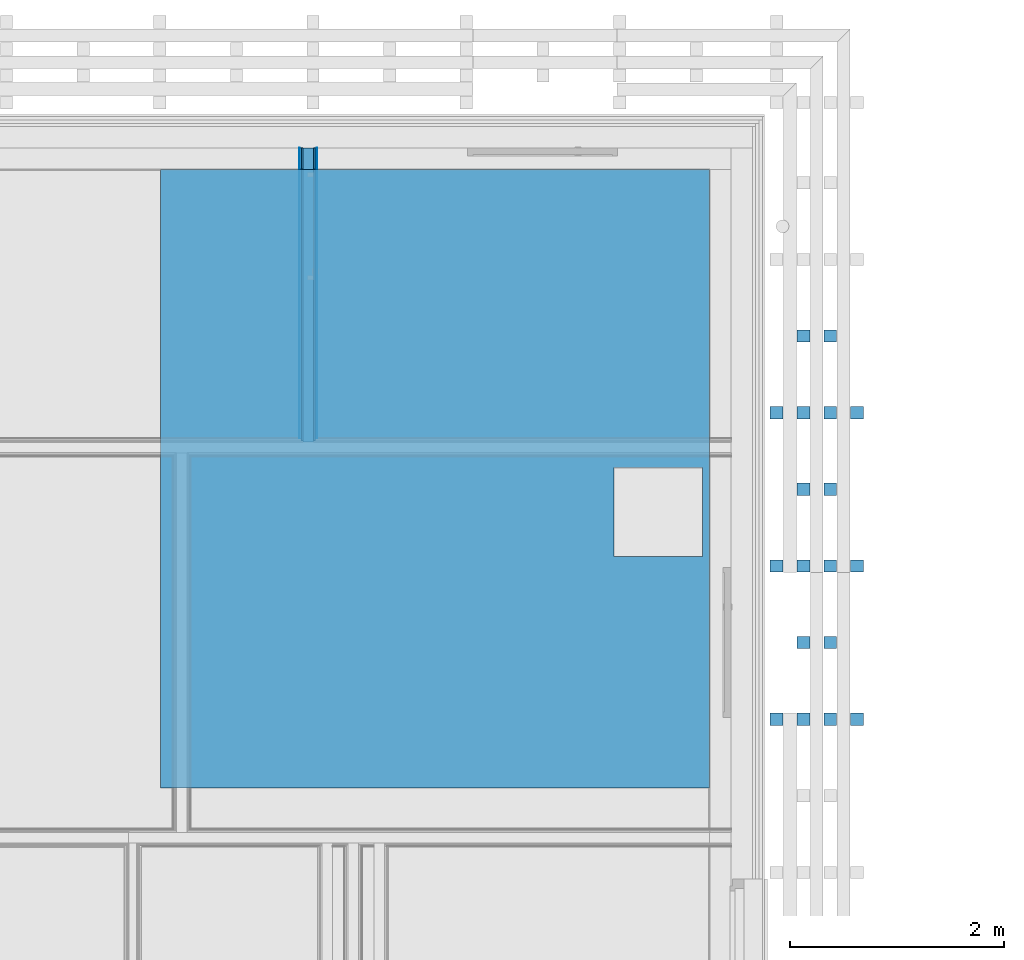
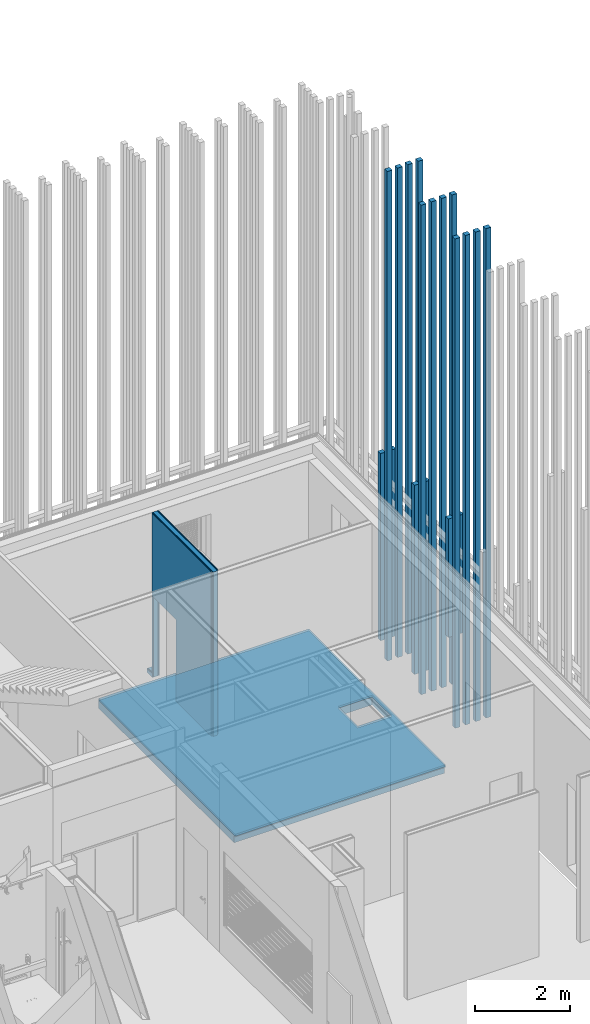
# One storey, part 194 of 260: 11 building element parts, 6 discrete accessories, 1 opening, 2 elements without a shape of their own.
"""IFC2X3 building model written with IfcOpenShell, lengths in millimetres."""

from ifc_helpers import new_model, entity, si_unit, converted_unit, derived_unit, money_unit, direction, frame, origin_with_axes, place, context, subcontext, project, spatial, faceted_brep, material, material_list, type_object, element, aggregate, save


model = new_model("IFC2X3")

# Units and contexts
model_context = context("Model", 3, precision=0.01, world=origin_with_axes(), true_north=direction((0.0, 1.0)))
body_context = subcontext(model_context, "Body", "Model", "MODEL_VIEW")
ifc_project = project(units=[si_unit("LENGTHUNIT", "METRE", prefix="MILLI"), si_unit("AREAUNIT", "SQUARE_METRE"), si_unit("VOLUMEUNIT", "CUBIC_METRE"), converted_unit("PLANEANGLEUNIT", "DEGREE", entity("IfcPlaneAngleMeasure", 0.0174532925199), si_unit("PLANEANGLEUNIT", "RADIAN"), dimensions=[0, 0, 0, 0, 0, 0, 0]), money_unit("EUR"), converted_unit("TIMEUNIT", "Year", entity("IfcTimeMeasure", 31556926.0), si_unit("TIMEUNIT", "SECOND"), dimensions=[0, 0, 1, 0, 0, 0, 0]), si_unit("MASSUNIT", "GRAM", prefix="KILO"), si_unit("THERMODYNAMICTEMPERATUREUNIT", "DEGREE_CELSIUS"), si_unit("LUMINOUSINTENSITYUNIT", "LUMEN"), si_unit("ENERGYUNIT", "JOULE", prefix="MEGA"), derived_unit("THERMALCONDUCTANCEUNIT", [(si_unit("POWERUNIT", "WATT"), 1), (si_unit("LENGTHUNIT", "METRE"), -1), (si_unit("THERMODYNAMICTEMPERATUREUNIT", "KELVIN"), -1)]), derived_unit("SPECIFICHEATCAPACITYUNIT", [(si_unit("ENERGYUNIT", "JOULE"), 1), (si_unit("MASSUNIT", "GRAM", prefix="KILO"), -1), (si_unit("THERMODYNAMICTEMPERATUREUNIT", "KELVIN"), -1)]), derived_unit("MASSDENSITYUNIT", [(si_unit("MASSUNIT", "GRAM", prefix="KILO"), 1), (si_unit("VOLUMEUNIT", "CUBIC_METRE"), -1)])], contexts=[model_context])

# Site, building, storey
site_placement = place(None, origin_with_axes())
site = spatial("IfcSite", under=ifc_project, at=site_placement, Name="Kolde pst 67a", CompositionType="ELEMENT")
building_placement = place(site_placement, origin_with_axes())
building = spatial("IfcBuilding", under=site, at=building_placement, Name="Riigigümnaasium", CompositionType="ELEMENT")
storey_placement = place(building_placement, origin_with_axes())
storey = spatial("IfcBuildingStorey", under=building, at=storey_placement, Name="1. korrus", CompositionType="ELEMENT", Elevation=0.0)

# Discrete accessories
ifc_material_1 = material(Name="_VÄLISVIIMISTLUS - sõrmjätkatud puitprussid 120x115mm, liitekohad vähemärgatavad, Platowood sõrmjätkatud kuusk või samaväärne; eeltöödeldud tuletõkkevõõbaga, tuletundlikkus B-s1, d0, Woodsafe Exterior WFX™ või samaväärne; kinnitused vastavalt EK osale")
ifc_material_list_1 = material_list([ifc_material_1, ifc_material_1, ifc_material_1, ifc_material_1])
discrete_accessory_type_1 = type_object("IfcDiscreteAccessoryType", Name="120 4-ne vertikaalne 870 x 115")
for number, where, z_axis, x_axis in (
    (1, (60792.0389555, 57957.4998418, 280.0), (0.0, 0.0, 1.0), (-0.999999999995, -3.13999128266e-06, 0.0)),
    (2, (60791.9939731, 56527.4998418, 280.0), (0.0, 0.0, 1.0), (-0.999999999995, -3.13999128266e-06, 0.0)),
    (3, (60791.9939731, 55097.4998416, 280.0), (0.0, 0.0, 1.0), (-0.999999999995, -3.13999128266e-06, 0.0)),
):
    element("IfcDiscreteAccessory", number, at=place(storey_placement, frame(where, z_axis=z_axis, x_axis=x_axis)), inside=storey, type_object=discrete_accessory_type_1, material=ifc_material_list_1, Name="Päikesevarjestus", context=body_context, shape_type="Brep", body=[
        faceted_brep([(-133.0, -70.0, 0.0), (-13.0, -70.0, 0.0), (-13.0, -70.0, 12600.0), (-133.0, -70.0, 12600.0), (-133.0, 45.0, 0.0), (-13.0, 45.0, 0.0), (-13.0, 45.0, 12600.0), (-133.0, 45.0, 12600.0)], [[[0, 1, 2, 3]], [[0, 4, 5, 1]], [[1, 5, 6, 2]], [[3, 2, 6, 7]], [[4, 0, 3, 7]], [[5, 4, 7, 6]]]),
        faceted_brep([(-383.0, -70.0, 0.0), (-263.0, -70.0, 0.0), (-263.0, -70.0, 12600.0), (-383.0, -70.0, 12600.0), (-383.0, 45.0, 0.0), (-263.0, 45.0, 0.0), (-263.0, 45.0, 12600.0), (-383.0, 45.0, 12600.0)], [[[0, 1, 2, 3]], [[0, 4, 5, 1]], [[1, 5, 6, 2]], [[3, 2, 6, 7]], [[4, 0, 3, 7]], [[5, 4, 7, 6]]]),
        faceted_brep([(-633.0, -70.0, 0.0), (-513.0, -70.0, 0.0), (-513.0, -70.0, 12600.0), (-633.0, -70.0, 12600.0), (-633.0, 45.0, 0.0), (-513.0, 45.0, 0.0), (-513.0, 45.0, 12600.0), (-633.0, 45.0, 12600.0)], [[[0, 1, 2, 3]], [[0, 4, 5, 1]], [[1, 5, 6, 2]], [[3, 2, 6, 7]], [[4, 0, 3, 7]], [[5, 4, 7, 6]]]),
        faceted_brep([(-883.0, -70.0, 0.0), (-763.0, -70.0, 0.0), (-763.0, -70.0, 12600.0), (-883.0, -70.0, 12600.0), (-883.0, 45.0, 0.0), (-763.0, 45.0, 0.0), (-763.0, 45.0, 12600.0), (-883.0, 45.0, 12600.0)], [[[0, 1, 2, 3]], [[0, 4, 5, 1]], [[1, 5, 6, 2]], [[3, 2, 6, 7]], [[4, 0, 3, 7]], [[5, 4, 7, 6]]]),
    ])
ifc_material_list_2 = material_list([ifc_material_1, ifc_material_1])
discrete_accessory_type_2 = type_object("IfcDiscreteAccessoryType", Name="1+paiksekaitse 3 370 x 115")
discrete_accessory_1_placement = place(storey_placement, frame((61771.9937454, 55885.0013897, 2100.00014213), z_axis=(0.0, 0.0, 1.0), x_axis=(-1.0, 0.0, 0.0)))
element("IfcDiscreteAccessory", 4, at=discrete_accessory_1_placement, inside=storey, type_object=discrete_accessory_type_2, material=ifc_material_list_2, Name="Päikesevarjestus", context=body_context, shape_type="Brep", body=[
    faceted_brep([(467.0, 117.5, 0.0), (347.0, 117.5, 0.0), (347.0, 117.5, 3050.0), (467.0, 117.5, 3050.0), (467.0, 2.5, 0.0), (347.0, 2.5, 0.0), (347.0, 2.5, 3050.0), (467.0, 2.5, 3050.0)], [[[0, 1, 2, 3]], [[0, 4, 5, 1]], [[1, 5, 6, 2]], [[3, 2, 6, 7]], [[4, 0, 3, 7]], [[5, 4, 7, 6]]]),
    faceted_brep([(717.0, 117.5, 0.0), (597.0, 117.5, 0.0), (597.0, 117.5, 3050.0), (717.0, 117.5, 3050.0), (717.0, 2.5, 0.0), (597.0, 2.5, 0.0), (597.0, 2.5, 3050.0), (717.0, 2.5, 3050.0)], [[[0, 1, 2, 3]], [[0, 4, 5, 1]], [[1, 5, 6, 2]], [[3, 2, 6, 7]], [[4, 0, 3, 7]], [[5, 4, 7, 6]]]),
])
discrete_accessory_2_placement = place(storey_placement, frame((61771.9937454, 57315.0013897, 280.0), z_axis=(0.0, 0.0, 1.0), x_axis=(-1.0, 0.0, 0.0)))
element("IfcDiscreteAccessory", 5, at=discrete_accessory_2_placement, inside=storey, type_object=discrete_accessory_type_2, material=ifc_material_list_2, Name="Päikesevarjestus", context=body_context, shape_type="Brep", body=[
    faceted_brep([(467.0, 117.5, 0.0), (347.0, 117.5, 0.0), (347.0, 117.5, 4870.00014213), (467.0, 117.5, 4870.00014213), (467.0, 2.5, 0.0), (347.0, 2.5, 0.0), (347.0, 2.5, 4870.00014213), (467.0, 2.5, 4870.00014213)], [[[0, 1, 2, 3]], [[0, 4, 5, 1]], [[1, 5, 6, 2]], [[3, 2, 6, 7]], [[4, 0, 3, 7]], [[5, 4, 7, 6]]]),
    faceted_brep([(717.0, 117.5, 0.0), (597.0, 117.5, 0.0), (597.0, 117.5, 4870.00014213), (717.0, 117.5, 4870.00014213), (717.0, 2.5, 0.0), (597.0, 2.5, 0.0), (597.0, 2.5, 4870.00014213), (717.0, 2.5, 4870.00014213)], [[[0, 1, 2, 3]], [[0, 4, 5, 1]], [[1, 5, 6, 2]], [[3, 2, 6, 7]], [[4, 0, 3, 7]], [[5, 4, 7, 6]]]),
])
discrete_accessory_3_placement = place(storey_placement, frame((61771.9937454, 58745.0013897, 280.0), z_axis=(0.0, 0.0, 1.0), x_axis=(-1.0, 0.0, 0.0)))
element("IfcDiscreteAccessory", 6, at=discrete_accessory_3_placement, inside=storey, type_object=discrete_accessory_type_2, material=ifc_material_list_2, Name="Päikesevarjestus", context=body_context, shape_type="Brep", body=[
    faceted_brep([(467.0, 117.5, 0.0), (347.0, 117.5, 0.0), (347.0, 117.5, 4820.0), (467.0, 117.5, 4820.0), (467.0, 2.5, 0.0), (347.0, 2.5, 0.0), (347.0, 2.5, 4820.0), (467.0, 2.5, 4820.0)], [[[0, 1, 2, 3]], [[0, 4, 5, 1]], [[1, 5, 6, 2]], [[3, 2, 6, 7]], [[4, 0, 3, 7]], [[5, 4, 7, 6]]]),
    faceted_brep([(717.0, 117.5, 0.0), (597.0, 117.5, 0.0), (597.0, 117.5, 4820.0), (717.0, 117.5, 4820.0), (717.0, 2.5, 0.0), (597.0, 2.5, 0.0), (597.0, 2.5, 4820.0), (717.0, 2.5, 4820.0)], [[[0, 1, 2, 3]], [[0, 4, 5, 1]], [[1, 5, 6, 2]], [[3, 2, 6, 7]], [[4, 0, 3, 7]], [[5, 4, 7, 6]]]),
])

# Wall, opening, building element parts
wall_type = type_object("IfcWallType", Name="SS-PK-10/9_vill100+2värv 170", PredefinedType="NOTDEFINED")
wall_placement = place(storey_placement, frame((56579.9939157, 57730.0055844, 0.0), z_axis=(0.0, 0.0, 1.0), x_axis=(0.0, 1.0, 0.0)))
wall = element("IfcWall", 7, at=wall_placement, inside=storey, type_object=wall_type, Name="Sisesein")
opening_placement = place(wall_placement, frame((1979.40584584, 0.0, 0.0), z_axis=(0.0, 0.0, 1.0), x_axis=(1.0, 0.0, 0.0)))
element("IfcOpeningElement", 8, at=opening_placement, cuts=wall, Name="Siseuks", context=body_context, shape_type="Brep", body=[
    faceted_brep([(500.0, -340.0, 2100.0), (500.0, -340.0, 0.0), (500.0, 170.0, 0.0), (500.0, 170.0, 2100.0), (-500.0, -340.0, 2100.0), (-500.0, -340.0, 0.0), (-500.0, 170.0, 0.0), (-500.0, 170.0, 2100.0)], [[[0, 1, 2, 3]], [[0, 4, 5, 1]], [[1, 5, 6, 2]], [[3, 2, 6, 7]], [[4, 0, 3, 7]], [[5, 4, 7, 6]]]),
])
ifc_material_2 = material(Name="_VIIMISTLUSKIHT - viimistlus vastavalt SA osale")
building_element_part_1_placement = place(wall_placement, origin_with_axes())
building_element_part_1 = element("IfcBuildingElementPart", 9, at=building_element_part_1_placement, material=ifc_material_2, Name="_VIIMISTLUSKIHT - viimistlus vastavalt SA osale", context=body_context, shape_type="Brep", body=[
    faceted_brep([(1479.40584584, 165.00000035, 0.0), (1479.40584584, 165.000000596, 2100.0), (2479.40584584, 165.000000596, 2100.0), (2479.40584584, 165.00000055, 0.0), (2709.99459998, 165.000000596, 0.0), (2709.99459998, 165.000000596, 100.0), (2499.99459998, 165.000000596, 100.0), (2499.99459998, 165.0, 4230.00000998), (0.0, 165.0, 4230.00000998), (0.0, 165.000000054, 0.0), (1479.40584584, 170.0, 0.0), (1479.40584584, 170.0, 2100.0), (2479.40584584, 170.0, 2100.0), (2479.40584584, 170.0, 0.0), (2709.99459998, 170.0, 0.0), (2709.99459998, 170.0, 100.0), (2499.99459998, 170.0, 100.0), (2499.99459998, 170.0, 4230.00000998), (0.0, 170.0, 4230.00000998), (0.0, 170.0, 0.0)], [[[0, 1, 2, 3, 4, 5, 6, 7, 8, 9]], [[1, 0, 10, 11]], [[2, 1, 11, 12]], [[3, 2, 12, 13]], [[3, 13, 14, 4]], [[5, 4, 14, 15]], [[16, 6, 5, 15]], [[7, 6, 16, 17]], [[17, 18, 8, 7]], [[8, 18, 19, 9]], [[10, 0, 9, 19]], [[11, 10, 19, 18, 17, 16, 15, 14, 13, 12]]]),
])
ifc_material_3 = material(Name="_PLAATMATERJAL - tuletõkkekipsplaat, Knauf Red GKF või samaväärne")
building_element_part_2_placement = place(wall_placement, origin_with_axes())
building_element_part_2 = element("IfcBuildingElementPart", 10, at=building_element_part_2_placement, material=ifc_material_3, Name="_PLAATMATERJAL - tuletõkkekipsplaat, Knauf Red GKF või samaväärne", context=body_context, shape_type="Brep", body=[
    faceted_brep([(1479.40584584, 149.999999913, 0.0), (1479.40584584, 149.999999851, 2100.0), (2479.40584584, 149.999999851, 2100.0), (2479.40584584, 149.999999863, 0.0), (2709.99459998, 149.999999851, 0.0), (2709.99459998, 149.999999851, 100.0), (2509.99459998, 149.999999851, 100.0), (2509.99459998, 150.0, 4230.00000998), (-5.0, 150.0, 4230.00000998), (-5.0, 149.999999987, 0.0), (1479.40584584, 165.00000035, 0.0), (1479.40584584, 165.000000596, 2100.0), (2479.40584584, 165.000000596, 2100.0), (2479.40584584, 165.00000055, 0.0), (2709.99459998, 165.000000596, 0.0), (2709.99459998, 165.000000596, 100.0), (2509.99459998, 165.000000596, 100.0), (2509.99459998, 165.0, 4230.00000998), (-5.0, 165.0, 4230.00000998), (-5.0, 165.000000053, 0.0)], [[[0, 1, 2, 3, 4, 5, 6, 7, 8, 9]], [[1, 0, 10, 11]], [[2, 1, 11, 12]], [[3, 2, 12, 13]], [[3, 13, 14, 4]], [[5, 4, 14, 15]], [[5, 15, 16, 6]], [[7, 6, 16, 17]], [[17, 18, 8, 7]], [[8, 18, 19, 9]], [[10, 0, 9, 19]], [[11, 10, 19, 18, 17, 16, 15, 14, 13, 12]]]),
])
ifc_material_4 = material(Name="_PLAATMATERJAL - OSB3 plaat")
building_element_part_3_placement = place(wall_placement, origin_with_axes())
building_element_part_3 = element("IfcBuildingElementPart", 11, at=building_element_part_3_placement, material=ifc_material_4, Name="_PLAATMATERJAL - OSB3 plaat", context=body_context, shape_type="Brep", body=[
    faceted_brep([(1479.40584584, 134.999999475, 0.0), (1479.40584584, 134.999999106, 2100.0), (2479.40584584, 134.999999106, 2100.0), (2479.40584584, 134.999999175, 0.0), (2709.99459998, 134.999999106, 0.0), (2709.99459998, 134.999999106, 100.0), (2509.99459998, 134.999999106, 100.0), (2509.99459998, 135.0, 4230.00000998), (-20.0, 135.0, 4230.00000998), (-20.0, 134.999999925, 0.0), (1479.40584584, 149.999999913, 0.0), (1479.40584584, 149.999999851, 2100.0), (2479.40584584, 149.999999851, 2100.0), (2479.40584584, 149.999999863, 0.0), (2709.99459998, 149.999999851, 0.0), (2709.99459998, 149.999999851, 100.0), (2509.99459998, 149.999999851, 100.0), (2509.99459998, 150.0, 4230.00000998), (-20.0, 150.0, 4230.00000998), (-20.0, 149.999999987, 0.0)], [[[0, 1, 2, 3, 4, 5, 6, 7, 8, 9]], [[1, 0, 10, 11]], [[2, 1, 11, 12]], [[3, 2, 12, 13]], [[3, 13, 14, 4]], [[5, 4, 14, 15]], [[5, 15, 16, 6]], [[7, 6, 16, 17]], [[17, 18, 8, 7]], [[8, 18, 19, 9]], [[10, 0, 9, 19]], [[11, 10, 19, 18, 17, 16, 15, 14, 13, 12]]]),
])
ifc_material_5 = material(Name="_KARKASS - puitpruss 100x50mm vertikaalne, samm 600mm, vahel mineraalvill, helineeldetegur αw = 1.0, ISOVER ACOUSTIC 100mm või samaväärne")
building_element_part_4_placement = place(wall_placement, origin_with_axes())
building_element_part_4 = element("IfcBuildingElementPart", 12, at=building_element_part_4_placement, material=ifc_material_5, Name="_KARKASS - puitpruss 100x50mm vertikaalne, samm 600mm, vahel mineraalvill, helineeldetegur αw = 1.0, ISOVER ACOUSTIC 100mm või samaväärne", context=body_context, shape_type="Brep", body=[
    faceted_brep([(1479.40584584, 35.0000005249, 0.0), (1479.40584584, 35.0000008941, 2100.0), (2479.40584584, 35.0000008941, 2100.0), (2479.40584584, 35.0000008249, 0.0), (2709.99459998, 35.0000008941, 0.0), (2709.99459998, 35.0000008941, 100.0), (2509.99459998, 35.0000008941, 100.0), (2509.99459998, 35.0, 4230.00000998), (-35.0, 35.0, 4230.00000998), (-35.0, 35.0000000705, 0.0), (1479.40584584, 134.999999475, 0.0), (1479.40584584, 134.999999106, 2100.0), (2479.40584584, 134.999999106, 2100.0), (2479.40584584, 134.999999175, 0.0), (2709.99459998, 134.999999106, 0.0), (2709.99459998, 134.999999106, 100.0), (2509.99459998, 134.999999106, 100.0), (2509.99459998, 135.0, 4230.00000998), (-35.0, 135.0, 4230.00000998), (-35.0, 134.999999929, 0.0)], [[[0, 1, 2, 3, 4, 5, 6, 7, 8, 9]], [[1, 0, 10, 11]], [[2, 1, 11, 12]], [[3, 2, 12, 13]], [[3, 13, 14, 4]], [[5, 4, 14, 15]], [[5, 15, 16, 6]], [[7, 6, 16, 17]], [[17, 18, 8, 7]], [[8, 18, 19, 9]], [[10, 0, 9, 19]], [[11, 10, 19, 18, 17, 16, 15, 14, 13, 12]]]),
])
building_element_part_5_placement = place(wall_placement, origin_with_axes())
building_element_part_5 = element("IfcBuildingElementPart", 13, at=building_element_part_5_placement, material=ifc_material_4, Name="_PLAATMATERJAL - OSB3 plaat", context=body_context, shape_type="Brep", body=[
    faceted_brep([(1479.40584584, 20.0000000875, 0.0), (1479.40584584, 20.000000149, 2100.0), (2479.40584584, 20.000000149, 2100.0), (2479.40584584, 20.0000001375, 0.0), (2709.99459998, 20.000000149, 0.0), (2709.99459998, 20.000000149, 100.0), (2509.99459998, 20.000000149, 100.0), (2509.99459998, 20.0, 4230.00000998), (-20.0, 20.0, 4230.00000998), (-20.0, 20.0000000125, 0.0), (1479.40584584, 35.0000005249, 0.0), (1479.40584584, 35.0000008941, 2100.0), (2479.40584584, 35.0000008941, 2100.0), (2479.40584584, 35.0000008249, 0.0), (2709.99459998, 35.0000008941, 0.0), (2709.99459998, 35.0000008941, 100.0), (2509.99459998, 35.0000008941, 100.0), (2509.99459998, 35.0, 4230.00000998), (-20.0, 35.0, 4230.00000998), (-20.0, 35.000000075, 0.0)], [[[0, 1, 2, 3, 4, 5, 6, 7, 8, 9]], [[1, 0, 10, 11]], [[2, 1, 11, 12]], [[3, 2, 12, 13]], [[3, 13, 14, 4]], [[5, 4, 14, 15]], [[5, 15, 16, 6]], [[7, 6, 16, 17]], [[17, 18, 8, 7]], [[8, 18, 19, 9]], [[10, 0, 9, 19]], [[11, 10, 19, 18, 17, 16, 15, 14, 13, 12]]]),
])
building_element_part_6_placement = place(wall_placement, origin_with_axes())
building_element_part_6 = element("IfcBuildingElementPart", 14, at=building_element_part_6_placement, material=ifc_material_3, Name="_PLAATMATERJAL - tuletõkkekipsplaat, Knauf Red GKF või samaväärne", context=body_context, shape_type="Brep", body=[
    faceted_brep([(1479.40584584, 4.99999965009, 0.0), (1479.40584584, 4.99999940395, 2100.0), (2479.40584584, 4.99999940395, 2100.0), (2479.40584584, 4.99999945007, 0.0), (2709.99459998, 4.99999940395, 0.0), (2709.99459998, 4.99999940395, 100.0), (2509.99459998, 4.99999940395, 100.0), (2509.99459998, 5.0, 4230.00000998), (-5.0, 5.0, 4230.00000998), (-5.0, 4.999999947, 0.0), (1479.40584584, 20.0000000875, 0.0), (1479.40584584, 20.000000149, 2100.0), (2479.40584584, 20.000000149, 2100.0), (2479.40584584, 20.0000001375, 0.0), (2709.99459998, 20.000000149, 0.0), (2709.99459998, 20.000000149, 100.0), (2509.99459998, 20.000000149, 100.0), (2509.99459998, 20.0, 4230.00000998), (-5.0, 20.0, 4230.00000998), (-5.0, 20.0000000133, 0.0)], [[[0, 1, 2, 3, 4, 5, 6, 7, 8, 9]], [[1, 0, 10, 11]], [[2, 1, 11, 12]], [[3, 2, 12, 13]], [[3, 13, 14, 4]], [[5, 4, 14, 15]], [[5, 15, 16, 6]], [[7, 6, 16, 17]], [[17, 18, 8, 7]], [[8, 18, 19, 9]], [[10, 0, 9, 19]], [[11, 10, 19, 18, 17, 16, 15, 14, 13, 12]]]),
])
building_element_part_7_placement = place(wall_placement, origin_with_axes())
building_element_part_7 = element("IfcBuildingElementPart", 15, at=building_element_part_7_placement, material=ifc_material_2, Name="_VIIMISTLUSKIHT - viimistlus vastavalt SA osale", context=body_context, shape_type="Brep", body=[
    faceted_brep([(1479.40584584, 0.0, 0.0), (1479.40584584, 0.0, 2100.0), (2479.40584584, 0.0, 2100.0), (2479.40584584, 0.0, 0.0), (2709.99459998, 0.0, 0.0), (2709.99459998, 0.0, 100.0), (2499.99459998, 0.0, 100.0), (2499.99459998, 0.0, 4230.00000998), (0.0, 0.0, 4230.00000998), (0.0, 0.0, 0.0), (1479.40584584, 4.99999965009, 0.0), (1479.40584584, 4.99999940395, 2100.0), (2479.40584584, 4.99999940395, 2100.0), (2479.40584584, 4.99999945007, 0.0), (2709.99459998, 4.99999940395, 0.0), (2709.99459998, 4.99999940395, 100.0), (2499.99459998, 4.99999940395, 100.0), (2499.99459998, 5.0, 4230.00000998), (0.0, 5.0, 4230.00000998), (0.0, 4.99999994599, 0.0)], [[[0, 1, 2, 3, 4, 5, 6, 7, 8, 9]], [[1, 0, 10, 11]], [[2, 1, 11, 12]], [[3, 2, 12, 13]], [[3, 13, 14, 4]], [[5, 4, 14, 15]], [[16, 6, 5, 15]], [[7, 6, 16, 17]], [[17, 18, 8, 7]], [[8, 18, 19, 9]], [[10, 0, 9, 19]], [[11, 10, 19, 18, 17, 16, 15, 14, 13, 12]]]),
])
aggregate(wall, [building_element_part_1, building_element_part_2, building_element_part_3, building_element_part_4, building_element_part_5, building_element_part_6, building_element_part_7])

# Slab, building element parts
slab_type = type_object("IfcSlabType", Name="VL-RBM-20/2_mahuti vahelagi 350", PredefinedType="NOTDEFINED")
slab_placement = place(storey_placement, frame((55116.9820755, 60240.0001843, 0.0), z_axis=(0.0, 0.0, 1.0), x_axis=(1.0, 0.0, 0.0)))
slab = element("IfcSlab", 16, at=slab_placement, inside=storey, type_object=slab_type, Name="Mahuti vahelagi", PredefinedType="NOTDEFINED")
ifc_material_6 = material(Name="_ERALDUSKIHT - polüetüleenkile 0,2mm, vuugid ülekattega 200mm ja teibitud")
building_element_part_8_placement = place(slab_placement, origin_with_axes())
building_element_part_8 = element("IfcBuildingElementPart", 17, at=building_element_part_8_placement, material=ifc_material_6, Name="_ERALDUSKIHT - polüetüleenkile 0,2mm, vuugid ülekattega 200mm ja teibitud", context=body_context, shape_type="Brep", body=[
    faceted_brep([(0.0, -5770.00011259, -100.1), (0.0, -5770.00011259, -100.0), (0.0, 0.0, -100.0), (0.0, 0.0, -100.1), (5123.01201107, -5770.00011259, -100.1), (5123.01201107, -5770.00011259, -100.0), (5123.01201107, -5250.00011972, -100.0), (5123.01201107, 0.0, -100.0), (4231.15998644, -3610.35958099, -100.0), (4231.15998644, -2783.03824619, -100.0), (5055.66491577, -2783.03824619, -100.0), (5055.66491577, -3610.35958099, -100.0), (5123.01201107, 0.0, -100.1), (5123.01201107, -5250.00011972, -100.1), (4231.15998644, -3610.35958099, -100.1), (5055.66491577, -3610.35958099, -100.1), (5055.66491577, -2783.03824619, -100.1), (4231.15998644, -2783.03824619, -100.1)], [[[0, 1, 2, 3]], [[4, 5, 1, 0]], [[2, 1, 5, 6, 7], [8, 9, 10, 11]], [[3, 2, 7, 12]], [[3, 12, 13, 4, 0], [14, 15, 16, 17]], [[13, 6, 5, 4]], [[12, 7, 6, 13]], [[17, 9, 8, 14]], [[16, 10, 9, 17]], [[15, 11, 10, 16]], [[14, 8, 11, 15]]]),
])
ifc_material_7 = material(Name="_SOOJUSTUS - vahtpolüstüreenplaadid EPS 80, survetugevus min 80kPa, soojuserijuhtivus λD<0,038 W/(mK); sulundplaadid või vähemalt 2 kihti plaate ja plaadikihtide vuugid teineteise suhtes nihkes.")
building_element_part_9_placement = place(slab_placement, origin_with_axes())
building_element_part_9 = element("IfcBuildingElementPart", 18, at=building_element_part_9_placement, material=ifc_material_7, Name="_SOOJUSTUS - vahtpolüstüreenplaadid EPS 80, survetugevus min 80kPa, soojuserijuhtivus λD<0,038 W/(mK); sulundplaadid või vähemalt 2 kihti plaate ja plaadikihtide vuugid teineteise suhtes nihkes.", context=body_context, shape_type="Brep", body=[
    faceted_brep([(0.0, -5770.00011259, -150.1), (0.0, -5770.00011259, -100.1), (0.0, 0.0, -100.1), (0.0, 0.0, -150.1), (5123.01201107, -5770.00011259, -150.1), (5123.01201107, -5770.00011259, -100.1), (5123.01201107, -5250.00011972, -100.1), (5123.01201107, 0.0, -100.1), (4231.15998644, -3610.35958099, -100.1), (4231.15998644, -2783.03824619, -100.1), (5055.66491577, -2783.03824619, -100.1), (5055.66491577, -3610.35958099, -100.1), (5123.01201107, 0.0, -150.1), (5123.01201107, -5250.00011972, -150.1), (4231.15998644, -3610.35958099, -150.1), (5055.66491577, -3610.35958099, -150.1), (5055.66491577, -2783.03824619, -150.1), (4231.15998644, -2783.03824619, -150.1)], [[[0, 1, 2, 3]], [[4, 5, 1, 0]], [[2, 1, 5, 6, 7], [8, 9, 10, 11]], [[3, 2, 7, 12]], [[3, 12, 13, 4, 0], [14, 15, 16, 17]], [[13, 6, 5, 4]], [[12, 7, 6, 13]], [[17, 9, 8, 14]], [[16, 10, 9, 17]], [[15, 11, 10, 16]], [[14, 8, 11, 15]]]),
])
ifc_material_8 = material(Name="_ERALDUSKIHT - radoonitõkkekile/-membraan 0,5mm, radoonitakistus 6,1x(10 astmes 11) m2*s*Pa/kg, Delta-Radonsperre 450g/m² või samaväärne")
building_element_part_10_placement = place(slab_placement, origin_with_axes())
building_element_part_10 = element("IfcBuildingElementPart", 19, at=building_element_part_10_placement, material=ifc_material_8, Name="_ERALDUSKIHT - radoonitõkkekile/-membraan 0,5mm, radoonitakistus 6,1x(10 astmes 11) m2*s*Pa/kg, Delta-Radonsperre 450g/m² või samaväärne", context=body_context, shape_type="Brep", body=[
    faceted_brep([(0.0, 0.0, -150.2), (0.0, -5770.00011259, -150.2), (0.0, -5770.00011259, -150.1), (0.0, 0.0, -150.1), (5123.01201107, 0.0, -150.2), (5123.01201107, -5250.00011972, -150.2), (5123.01201107, -5770.00011259, -150.2), (4231.15998644, -2783.03824619, -150.2), (4231.15998644, -3610.35958099, -150.2), (5055.66491577, -3610.35958099, -150.2), (5055.66491577, -2783.03824619, -150.2), (5123.01201107, -5770.00011259, -150.1), (5123.01201107, 0.0, -150.1), (5123.01201107, -5250.00011972, -150.1), (5055.66491577, -3610.35958099, -150.1), (4231.15998644, -3610.35958099, -150.1), (4231.15998644, -2783.03824619, -150.1), (5055.66491577, -2783.03824619, -150.1)], [[[0, 1, 2, 3]], [[1, 0, 4, 5, 6], [7, 8, 9, 10]], [[1, 6, 11, 2]], [[12, 3, 2, 11, 13], [14, 15, 16, 17]], [[4, 0, 3, 12]], [[5, 4, 12, 13]], [[6, 5, 13, 11]], [[8, 7, 16, 15]], [[9, 8, 15, 14]], [[10, 9, 14, 17]], [[7, 10, 17, 16]]]),
])
ifc_material_9 = material(Name="_KANDETARIND - monoliitne raudbetoon vastavalt EK osale")
building_element_part_11_placement = place(slab_placement, origin_with_axes())
building_element_part_11 = element("IfcBuildingElementPart", 20, at=building_element_part_11_placement, material=ifc_material_9, Name="_KANDETARIND - monoliitne raudbetoon vastavalt EK osale", context=body_context, shape_type="Brep", body=[
    faceted_brep([(5123.01201107, -5720.00012603, -165.1), (5123.01201107, -5720.00012603, -350.2), (5123.01201107, 0.0, -350.2), (5123.01201107, 0.0, -150.2), (5123.01201107, -5770.00011259, -150.2), (5123.01201107, -5770.00011259, -165.1), (0.0, -5720.00012603, -165.1), (0.0, -5720.00012603, -350.2), (0.0, 0.0, -350.2), (4231.15998644, -2783.03824619, -350.2), (4231.15998644, -3610.35958099, -350.2), (5055.66491577, -3610.35958099, -350.2), (5055.66491577, -2783.03824619, -350.2), (0.0, 0.0, -150.2), (0.0, -5770.00011259, -150.2), (5055.66491577, -3610.35958099, -150.2), (4231.15998644, -3610.35958099, -150.2), (4231.15998644, -2783.03824619, -150.2), (5055.66491577, -2783.03824619, -150.2), (0.0, -5770.00011259, -165.1)], [[[0, 1, 2, 3, 4, 5]], [[1, 0, 6, 7]], [[1, 7, 8, 2], [9, 10, 11, 12]], [[3, 2, 8, 13]], [[3, 13, 14, 4], [15, 16, 17, 18]], [[19, 5, 4, 14]], [[6, 0, 5, 19]], [[6, 19, 14, 13, 8, 7]], [[16, 10, 9, 17]], [[15, 11, 10, 16]], [[18, 12, 11, 15]], [[17, 9, 12, 18]]]),
])
aggregate(slab, [building_element_part_8, building_element_part_9, building_element_part_10, building_element_part_11])

save(model, "model.ifc")
